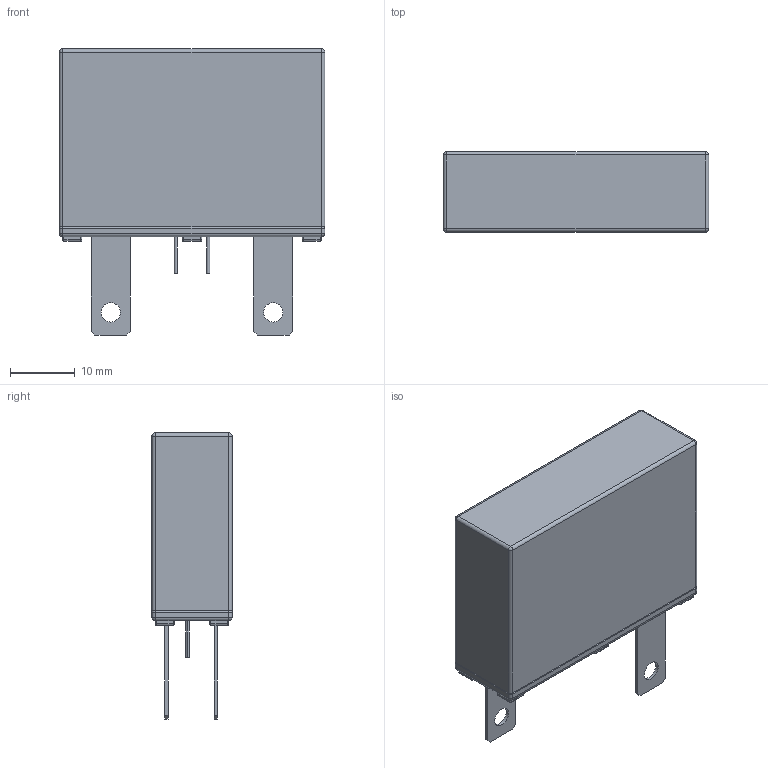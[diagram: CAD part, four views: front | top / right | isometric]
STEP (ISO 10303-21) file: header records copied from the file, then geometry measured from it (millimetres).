
FILE_DESCRIPTION((''),'2;1');
FILE_NAME('TFMOV20K-12-20200812','2020-08-12T',('SET-01114'),(''),'PRO/ENGINEER BY PARAMETRIC TECHNOLOGY CORPORATION, 2012310','PRO/ENGINEER BY PARAMETRIC TECHNOLOGY CORPORATION, 2012310','');
FILE_SCHEMA(('CONFIG_CONTROL_DESIGN','SHAPE_APPEARANCE_LAYERS_GROUPS'));
Length unit declared in the file: millimetre
Products named in the file (1): TFMOV20K-12-20200812
Bounding box: 41 x 12.4 x 44.2 mm (x, y, z)
Volume: 14786.5 mm3; surface area: 5053.2 mm2
Topology: 5 solids, 11 shells, 286 faces, 657 edges, 396 vertices
Faces by surface type: plane 133, cylinder 107, sphere 34, torus 8, cone 2, bspline 2
Entity records: 10090 total; most frequent: CARTESIAN_POINT 1476, DIRECTION 1425, ORIENTED_EDGE 1314, PRESENTATION_STYLE_ASSIGNMENT 662, STYLED_ITEM 662, CURVE_STYLE 657, EDGE_CURVE 657, AXIS2_PLACEMENT_3D 508
